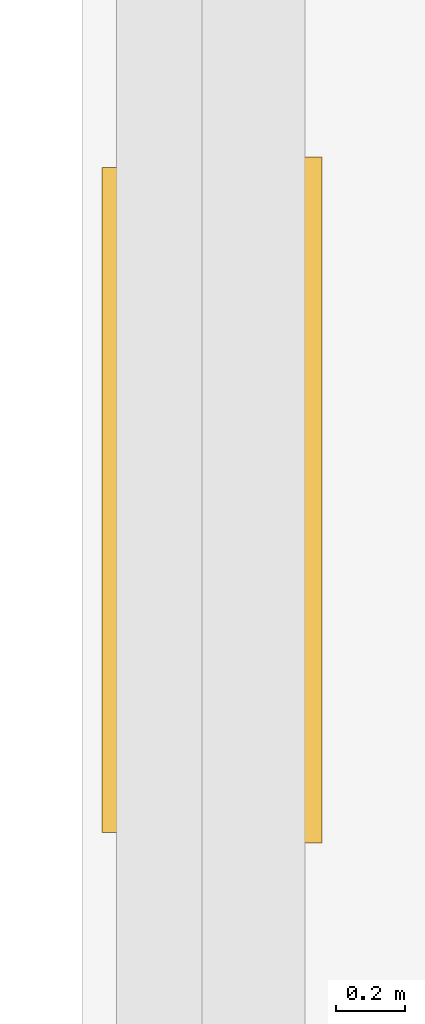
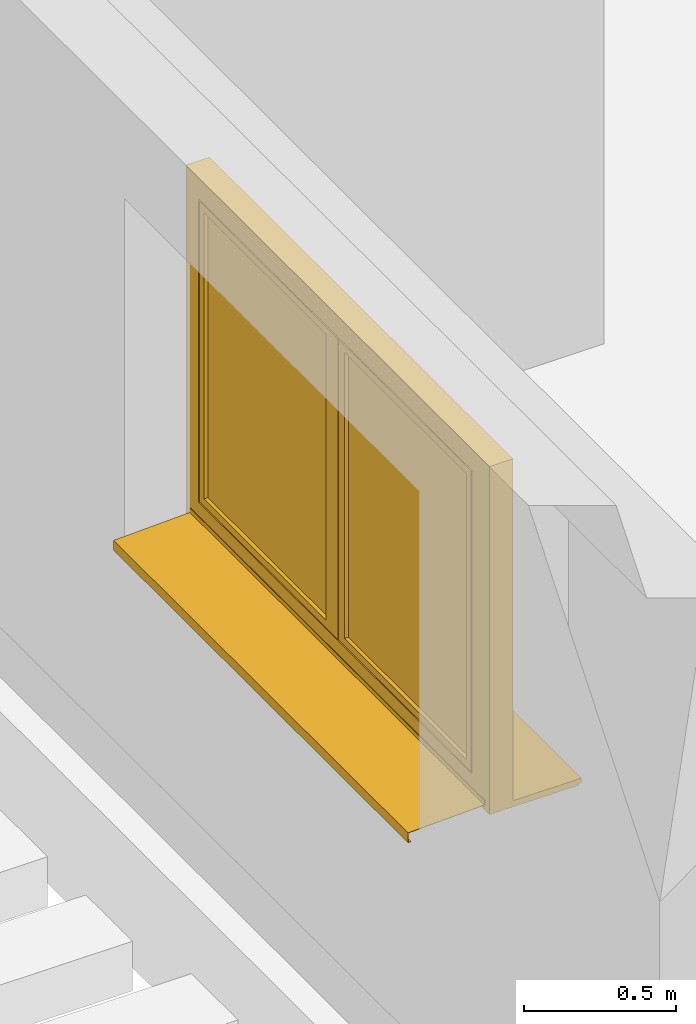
# One storey, part 17 of 22: 1 window.
"""IFC2X3 building model written with IfcOpenShell, lengths in metres."""

from ifc_helpers import new_model, entity, si_unit, converted_unit, derived_unit, direction, frame, frame_2d, origin, place, context, subcontext, project, spatial, polyline, rectangle, outline, extrude, faceted_brep, source, transform, mapped, material, material_list, type_object, type_shapes, element, save


model = new_model("IFC2X3")

# Units and contexts
model_context = context("Model", 3, precision=1e-05, world=origin(), true_north=direction((6.123233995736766e-17, 1.0)))
body_context = subcontext(model_context, "Body", "Model", "MODEL_VIEW")
ifc_project = project(units=[si_unit("LENGTHUNIT", "METRE"), si_unit("AREAUNIT", "SQUARE_METRE"), si_unit("VOLUMEUNIT", "CUBIC_METRE"), si_unit("POWERUNIT", "WATT"), derived_unit("USERDEFINED", [(si_unit("MASSUNIT", "GRAM", prefix="KILO"), 1), (si_unit("TIMEUNIT", "SECOND"), -3)]), derived_unit("THERMALRESISTANCEUNIT", [(si_unit("MASSUNIT", "GRAM", prefix="KILO"), -1), (si_unit("TIMEUNIT", "SECOND"), 3), (si_unit("THERMODYNAMICTEMPERATUREUNIT", "KELVIN"), 1)]), derived_unit("USERDEFINED", [(si_unit("MASSUNIT", "GRAM", prefix="KILO"), 1), (si_unit("TIMEUNIT", "SECOND"), -2), (si_unit("THERMODYNAMICTEMPERATUREUNIT", "KELVIN"), -1)]), derived_unit("THERMALTRANSMITTANCEUNIT", [(si_unit("MASSUNIT", "GRAM", prefix="KILO"), 1), (si_unit("TIMEUNIT", "SECOND"), -3), (si_unit("THERMODYNAMICTEMPERATUREUNIT", "KELVIN"), -1)]), converted_unit("PLANEANGLEUNIT", "DEGREE", entity("IfcPlaneAngleMeasure", 0.017453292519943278), si_unit("PLANEANGLEUNIT", "RADIAN"), dimensions=[0, 0, 0, 0, 0, 0, 0]), derived_unit("MOMENTOFINERTIAUNIT", [(si_unit("LENGTHUNIT", "METRE"), 4)])], contexts=[model_context])

# Site, building, storey
site_placement = place(None, origin())
site = spatial("IfcSite", under=ifc_project, at=site_placement, Name="Default", CompositionType="ELEMENT")
building_placement = place(site_placement, origin())
building = spatial("IfcBuilding", under=site, at=building_placement, CompositionType="ELEMENT")
storey_placement = place(building_placement, origin())
storey = spatial("IfcBuildingStorey", under=building, at=storey_placement, Name="Untergeschoss", CompositionType="ELEMENT", Elevation=0.0)

# Window
ifc_material_1 = material(Name="Glas - Isolierverglasung klar")
ifc_material_2 = material(Name="Holz - generisch 140-100-70")
ifc_material_3 = material(Name="Metall - Edelstahl gebürstet")
ifc_material_4 = material(Name="Kunststoff - grau 70-70-70")
ifc_material_list = material_list([ifc_material_1, ifc_material_2, ifc_material_3, ifc_material_4])
window_style = type_object("IfcWindowStyle", Name="FE 2 tlg - DrehKipp mit Stulp:2000 x 1400", ConstructionType="NOTDEFINED", OperationType="NOTDEFINED", ParameterTakesPrecedence=False, Sizeable=False, material=ifc_material_list)
shared_shape = source(origin(), body_context, "Body", "SolidModel", [
    extrude(rectangle(XDim=0.8050000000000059, YDim=0.04399999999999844, at=frame_2d((-2.7755575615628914e-17, 0.0), x_axis=(1.0, 0.0))), frame((1.4775000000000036, -0.3070000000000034, 0.13000000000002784)), (0.0, 0.0, 1.0), 1.149999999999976),
    extrude(rectangle(XDim=0.04399999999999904, YDim=0.8050000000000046, at=frame_2d((-1.734723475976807e-18, 2.7755575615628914e-17), x_axis=(1.0, 0.0))), frame((0.5524999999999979, -0.30700000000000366, 0.1300000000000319), z_axis=(0.0, 0.0, 1.0), x_axis=(0.0, -1.0, 0.0)), (0.0, 0.0, 1.0), 1.149999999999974),
    extrude(outline(polyline([(-0.014333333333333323, -0.0900000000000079), (0.00366666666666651, -0.0900000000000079), (0.0036666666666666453, -0.08000000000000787), (0.010666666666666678, -0.08000000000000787), (0.010666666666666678, 0.17000000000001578), (-0.014333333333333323, 0.17000000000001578), (-0.014333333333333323, -0.0900000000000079)])), frame((0.0, -0.530000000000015, 0.010666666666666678), z_axis=(1.0, 0.0, 0.0), x_axis=(0.0, 0.0, -1.0)), (0.0, 0.0, 1.0), 1.999999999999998),
    faceted_brep([(0.9920740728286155, -0.36000000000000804, 0.6842647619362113), (0.9908253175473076, -0.36000000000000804, 0.6812499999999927), (0.9888388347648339, -0.36000000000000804, 0.6786611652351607), (0.9862500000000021, -0.36000000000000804, 0.6766746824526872), (0.9832352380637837, -0.36000000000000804, 0.6754259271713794), (0.9800000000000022, -0.36000000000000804, 0.6749999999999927), (0.9767647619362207, -0.36000000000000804, 0.6754259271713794), (0.9737500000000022, -0.36000000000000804, 0.6766746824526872), (0.9711611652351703, -0.36000000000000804, 0.6786611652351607), (0.9691746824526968, -0.36000000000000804, 0.6812499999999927), (0.9679259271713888, -0.36000000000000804, 0.684264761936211), (0.9675000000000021, -0.36000000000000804, 0.6874999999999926), (0.9675000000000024, -0.360000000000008, 0.7049999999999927), (0.9675000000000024, -0.3600000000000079, 0.7224999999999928), (0.967925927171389, -0.3600000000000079, 0.725735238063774), (0.9691746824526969, -0.3600000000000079, 0.7287499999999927), (0.9711611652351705, -0.3600000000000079, 0.7313388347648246), (0.9737500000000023, -0.3600000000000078, 0.7333253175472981), (0.9767647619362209, -0.3600000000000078, 0.734574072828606), (0.9800000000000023, -0.3600000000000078, 0.7349999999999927), (0.9832352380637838, -0.3600000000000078, 0.734574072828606), (0.9862500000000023, -0.3600000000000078, 0.7333253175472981), (0.9888388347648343, -0.3600000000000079, 0.7313388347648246), (0.9908253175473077, -0.3600000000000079, 0.7287499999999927), (0.9920740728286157, -0.3600000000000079, 0.725735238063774), (0.9925000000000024, -0.3600000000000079, 0.7224999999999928), (0.9925000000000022, -0.360000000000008, 0.7049999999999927), (0.9925000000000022, -0.36000000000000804, 0.6874999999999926), (0.989659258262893, -0.392588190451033, 0.7075881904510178), (0.9850000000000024, -0.3660000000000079, 0.713660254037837), (0.9886602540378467, -0.39500000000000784, 0.7099999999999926), (0.9825881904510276, -0.3660000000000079, 0.7146592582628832), (0.9870710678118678, -0.39707106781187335, 0.7120710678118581), (0.9825881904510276, -0.39965925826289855, 0.7146592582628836), (0.9850000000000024, -0.3986602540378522, 0.7136602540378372), (0.9750000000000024, -0.3986602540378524, 0.7136602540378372), (0.9774118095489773, -0.3996592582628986, 0.7146592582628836), (0.9800000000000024, -0.4000000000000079, 0.7149999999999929), (0.9800000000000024, -0.3660000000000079, 0.7149999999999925), (0.989659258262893, -0.366000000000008, 0.7075881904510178), (0.9900000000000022, -0.3900000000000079, 0.7049999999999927), (0.9900000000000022, -0.38707108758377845, 0.7049999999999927), (0.9900000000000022, -0.3841421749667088, 0.7049999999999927), (0.9900000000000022, -0.3782843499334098, 0.7049999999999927), (0.9900000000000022, -0.366000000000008, 0.7049999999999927), (0.9886602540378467, -0.366000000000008, 0.7099999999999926), (0.9870710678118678, -0.3660000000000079, 0.7120710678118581), (0.9729289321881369, -0.3970710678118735, 0.7120710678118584), (0.9703407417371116, -0.39258819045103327, 0.7075881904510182), (0.971339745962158, -0.39500000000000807, 0.7099999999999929), (0.9750000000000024, -0.3660000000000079, 0.7136602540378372), (0.9774118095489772, -0.3660000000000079, 0.7146592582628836), (0.9700000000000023, -0.39000000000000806, 0.704999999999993), (0.9729289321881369, -0.3660000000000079, 0.7120710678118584), (0.971339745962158, -0.366000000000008, 0.7099999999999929), (0.9703407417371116, -0.366000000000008, 0.7075881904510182), (0.9700000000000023, -0.366000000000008, 0.7049999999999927), (0.9700000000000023, -0.378284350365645, 0.704999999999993), (0.9700000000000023, -0.3841421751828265, 0.7049999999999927), (0.9700000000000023, -0.3870710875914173, 0.7049999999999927), (0.9713397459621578, -0.385000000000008, 0.6999999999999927), (0.9729289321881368, -0.3829289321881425, 0.6979289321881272), (0.9703407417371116, -0.38741180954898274, 0.7024118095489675), (0.9703407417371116, -0.366000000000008, 0.7024118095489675), (0.9886602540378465, -0.385000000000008, 0.6999999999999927), (0.9896592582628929, -0.3874118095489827, 0.7024118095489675), (0.9896592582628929, -0.366000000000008, 0.7024118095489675), (0.9729289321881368, -0.366000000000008, 0.6979289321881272), (0.977411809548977, -0.3803407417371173, 0.6953407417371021), (0.9750000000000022, -0.38133974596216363, 0.6963397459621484), (0.971339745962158, -0.366000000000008, 0.6999999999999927), (0.9750000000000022, -0.366000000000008, 0.6963397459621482), (0.977411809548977, -0.366000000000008, 0.6953407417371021), (0.9800000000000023, -0.366000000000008, 0.6949999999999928), (0.9800000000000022, -0.38000000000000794, 0.6949999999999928), (0.9850000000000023, -0.38133974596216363, 0.6963397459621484), (0.9870710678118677, -0.38292893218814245, 0.6979289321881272), (0.9870710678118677, -0.366000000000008, 0.6979289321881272), (0.9825881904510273, -0.3803407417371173, 0.6953407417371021), (0.9825881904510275, -0.366000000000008, 0.6953407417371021), (0.9850000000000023, -0.366000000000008, 0.6963397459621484), (0.9886602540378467, -0.366000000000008, 0.6999999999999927), (0.9886602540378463, -0.38500000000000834, 0.5849999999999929), (0.9896592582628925, -0.3874118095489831, 0.5849999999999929), (0.9900000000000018, -0.39000000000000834, 0.5849999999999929), (0.9896592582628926, -0.39258819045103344, 0.5849999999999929), (0.9886602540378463, -0.3950000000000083, 0.5849999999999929), (0.9870710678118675, -0.39707106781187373, 0.5849999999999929), (0.985000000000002, -0.39866025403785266, 0.5849999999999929), (0.9825881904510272, -0.39965925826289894, 0.5849999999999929), (0.9800000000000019, -0.40000000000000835, 0.5849999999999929), (0.9774118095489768, -0.3996592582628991, 0.5849999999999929), (0.975000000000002, -0.39866025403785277, 0.5849999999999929), (0.9729289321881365, -0.39707106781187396, 0.5849999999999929), (0.9713397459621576, -0.39500000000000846, 0.5849999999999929), (0.9703407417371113, -0.3925881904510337, 0.5849999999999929), (0.9700000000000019, -0.39000000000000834, 0.5849999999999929), (0.9703407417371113, -0.3874118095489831, 0.5849999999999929), (0.9713397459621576, -0.38500000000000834, 0.5849999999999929), (0.9729289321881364, -0.38292893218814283, 0.5849999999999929), (0.9750000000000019, -0.38133974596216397, 0.5849999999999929), (0.9774118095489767, -0.3803407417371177, 0.5849999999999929), (0.9800000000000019, -0.3800000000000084, 0.5849999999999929), (0.9825881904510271, -0.3803407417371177, 0.5849999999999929), (0.9850000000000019, -0.38133974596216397, 0.5849999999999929), (0.9870710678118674, -0.38292893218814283, 0.5849999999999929), (0.9900000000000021, -0.3900000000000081, 0.6497913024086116), (0.9900000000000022, -0.390000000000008, 0.6773956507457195), (0.9700000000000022, -0.39000000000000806, 0.6773956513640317), (0.970000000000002, -0.3900000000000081, 0.649791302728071), (0.9711611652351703, -0.36600000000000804, 0.678661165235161), (0.9691746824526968, -0.36600000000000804, 0.6812499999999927), (0.9737500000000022, -0.36600000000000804, 0.6766746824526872), (0.9767647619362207, -0.36600000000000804, 0.6754259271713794), (0.9800000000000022, -0.36600000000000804, 0.6749999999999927), (0.9832352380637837, -0.36600000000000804, 0.6754259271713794), (0.9862500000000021, -0.36600000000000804, 0.6766746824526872), (0.9888388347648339, -0.36600000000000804, 0.678661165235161), (0.9908253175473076, -0.36600000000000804, 0.6812499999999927), (0.9920740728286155, -0.36600000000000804, 0.6842647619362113), (0.9925000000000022, -0.36600000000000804, 0.6874999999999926), (0.9925000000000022, -0.366000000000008, 0.7049999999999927), (0.9925000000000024, -0.3660000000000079, 0.7224999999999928), (0.9920740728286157, -0.3660000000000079, 0.7257352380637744), (0.9908253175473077, -0.3660000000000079, 0.7287499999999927), (0.9888388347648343, -0.3660000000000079, 0.7313388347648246), (0.9862500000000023, -0.3660000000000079, 0.7333253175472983), (0.9832352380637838, -0.3660000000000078, 0.734574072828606), (0.9800000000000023, -0.3660000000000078, 0.7349999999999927), (0.9767647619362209, -0.3660000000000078, 0.734574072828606), (0.9737500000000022, -0.3660000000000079, 0.7333253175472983), (0.9711611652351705, -0.3660000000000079, 0.7313388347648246), (0.9691746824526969, -0.3660000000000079, 0.7287499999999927), (0.967925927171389, -0.3660000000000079, 0.7257352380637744), (0.9675000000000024, -0.3660000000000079, 0.7224999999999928), (0.9675000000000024, -0.366000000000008, 0.7049999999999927), (0.9675000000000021, -0.36600000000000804, 0.6874999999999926), (0.9679259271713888, -0.36600000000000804, 0.6842647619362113)], [[[0, 1, 2, 3, 4, 5, 6, 7, 8, 9, 10, 11, 12, 13, 14, 15, 16, 17, 18, 19, 20, 21, 22, 23, 24, 25, 26, 27]], [[28, 29, 30]], [[30, 31, 32]], [[33, 34, 35, 36, 37]], [[38, 32, 31]], [[34, 32, 38]], [[39, 40, 41, 42, 43, 44]], [[45, 40, 39]], [[40, 45, 46]], [[29, 28, 46]], [[46, 28, 40]], [[29, 31, 30]], [[38, 35, 34]], [[35, 38, 47]], [[48, 49, 50]], [[51, 49, 47]], [[52, 48, 53]], [[47, 38, 51]], [[49, 51, 50]], [[52, 53, 54]], [[55, 56, 57, 58, 59, 52]], [[55, 52, 54]], [[53, 48, 50]], [[60, 57, 61]], [[59, 58, 62, 52]], [[56, 63, 57]], [[64, 43, 42]], [[41, 40, 65, 42]], [[44, 43, 66]], [[67, 68, 69]], [[67, 69, 57]], [[69, 61, 57]], [[63, 70, 57]], [[67, 71, 68]], [[67, 57, 70]], [[72, 68, 71]], [[72, 73, 74, 68]], [[75, 43, 76]], [[77, 75, 78]], [[65, 64, 42]], [[76, 43, 64]], [[79, 78, 74, 73]], [[78, 79, 80]], [[62, 58, 60]], [[43, 75, 77]], [[60, 58, 57]], [[81, 66, 43]], [[77, 81, 43]], [[77, 78, 80]], [[82, 83, 84, 85, 86, 87, 88, 89, 90, 91, 92, 93, 94, 95, 96, 97, 98, 99, 100, 101, 102, 103, 104, 105]], [[85, 84, 106, 107, 40]], [[85, 40, 86]], [[34, 33, 89, 88]], [[87, 86, 28]], [[88, 87, 32, 34]], [[28, 30, 87]], [[86, 40, 28]], [[87, 30, 32]], [[33, 37, 90, 89]], [[47, 93, 92, 35]], [[35, 92, 91, 36]], [[95, 52, 108, 109, 96]], [[52, 95, 94]], [[48, 94, 93]], [[90, 37, 36, 91]], [[47, 49, 93]], [[49, 48, 93]], [[48, 52, 94]], [[99, 98, 109]], [[97, 109, 98]], [[109, 68, 101]], [[101, 100, 109]], [[100, 99, 109]], [[96, 109, 97]], [[108, 52, 62]], [[108, 62, 60]], [[102, 101, 68, 74]], [[68, 109, 69]], [[61, 69, 109]], [[60, 61, 108]], [[65, 107, 64]], [[108, 61, 109]], [[104, 106, 105]], [[103, 106, 104]], [[83, 106, 84]], [[107, 65, 40]], [[82, 106, 83]], [[105, 106, 82]], [[103, 102, 74, 78]], [[78, 106, 103]], [[75, 76, 106]], [[76, 107, 106]], [[106, 78, 75]], [[76, 64, 107]], [[110, 73, 111]], [[112, 73, 110]], [[112, 113, 73]], [[114, 73, 113]], [[115, 73, 114]], [[115, 116, 73]], [[117, 73, 116]], [[117, 118, 73]], [[118, 79, 73]], [[79, 118, 119]], [[119, 120, 79]], [[120, 80, 79]], [[120, 77, 80]], [[77, 120, 81]], [[81, 120, 121]], [[66, 81, 121]], [[44, 66, 121]], [[39, 44, 121]], [[45, 39, 121]], [[45, 121, 122]], [[122, 46, 45]], [[122, 29, 46]], [[122, 31, 29]], [[122, 123, 31]], [[124, 31, 123]], [[124, 38, 31]], [[125, 38, 124]], [[38, 125, 126]], [[38, 126, 127]], [[127, 128, 38]], [[128, 129, 38]], [[38, 129, 130]], [[130, 131, 38]], [[132, 38, 131]], [[38, 132, 51]], [[51, 132, 133]], [[134, 51, 133]], [[134, 50, 51]], [[134, 53, 50]], [[134, 54, 53]], [[134, 135, 54]], [[55, 54, 135]], [[135, 56, 55]], [[63, 56, 135]], [[70, 63, 135]], [[136, 70, 135]], [[136, 67, 70]], [[136, 71, 67]], [[71, 136, 72]], [[72, 136, 137]], [[111, 72, 137]], [[111, 73, 72]], [[13, 134, 133, 14]], [[14, 133, 132, 15]], [[17, 16, 131, 130]], [[131, 16, 15, 132]], [[18, 17, 130, 129]], [[18, 129, 128, 19]], [[19, 128, 127, 20]], [[20, 127, 126, 21]], [[23, 22, 125, 124]], [[125, 22, 21, 126]], [[24, 23, 124, 123]], [[24, 123, 122, 25]], [[26, 25, 122, 121, 120, 27]], [[27, 120, 119, 0]], [[0, 119, 118, 1]], [[3, 2, 117, 116]], [[117, 2, 1, 118]], [[4, 3, 116, 115]], [[4, 115, 114, 5]], [[5, 114, 113, 6]], [[6, 113, 112, 7]], [[9, 8, 110, 111]], [[110, 8, 7, 112]], [[10, 9, 111, 137]], [[10, 137, 136, 11]], [[12, 11, 136, 135, 134, 13]]]),
    faceted_brep([(1.0750000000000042, -0.2700000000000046, 1.280000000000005), (1.0750000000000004, -0.2700000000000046, 0.13000000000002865), (1.8800000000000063, -0.2700000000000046, 0.1300000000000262), (1.88000000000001, -0.2700000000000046, 1.2800000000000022), (0.9975000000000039, -0.2700000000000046, 1.309999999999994), (1.9100000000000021, -0.2700000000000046, 1.3099999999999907), (1.9099999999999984, -0.2700000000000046, 0.09999999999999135), (0.9974999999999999, -0.2700000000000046, 0.09999999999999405), (1.0374999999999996, -0.3600000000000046, 0.060000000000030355), (1.0374999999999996, -0.34500000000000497, 0.060000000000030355), (1.9500000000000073, -0.34500000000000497, 0.06000000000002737), (1.9500000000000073, -0.3600000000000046, 0.06000000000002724), (1.9500000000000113, -0.34500000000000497, 1.3500000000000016), (1.9500000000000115, -0.3600000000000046, 1.3500000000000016), (1.0750000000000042, -0.3600000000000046, 1.280000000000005), (1.88000000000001, -0.3600000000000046, 1.2800000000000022), (1.8800000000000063, -0.3600000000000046, 0.1300000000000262), (1.0750000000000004, -0.3600000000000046, 0.13000000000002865), (1.0375000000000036, -0.3600000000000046, 1.3500000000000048), (1.0375000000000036, -0.3450000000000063, 1.3500000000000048), (1.0375000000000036, -0.3450000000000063, 1.3349999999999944), (1.0374999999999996, -0.34500000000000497, 0.07499999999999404), (0.9974999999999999, -0.28500000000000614, 0.09999999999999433), (0.9975000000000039, -0.28500000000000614, 1.309999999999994), (1.0125, -0.2850000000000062, 0.09999999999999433), (1.0125000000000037, -0.2850000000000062, 1.309999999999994), (1.0124999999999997, -0.2850000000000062, 0.08499999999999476), (1.0124999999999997, -0.3150000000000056, 0.08499999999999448), (1.0125000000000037, -0.3150000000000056, 1.324999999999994), (1.012500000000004, -0.2850000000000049, 1.324999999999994), (1.0225, -0.3150000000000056, 0.08499999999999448), (1.022500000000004, -0.3150000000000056, 1.324999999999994), (1.0225, -0.3150000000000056, 0.07499999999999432), (1.0224999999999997, -0.34500000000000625, 0.07499999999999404), (1.022500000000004, -0.34500000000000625, 1.3349999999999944), (1.022500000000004, -0.31500000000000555, 1.3349999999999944), (1.9099999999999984, -0.2850000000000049, 0.09999999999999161), (1.9100000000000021, -0.2850000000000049, 1.3099999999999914), (1.9350000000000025, -0.34500000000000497, 1.3349999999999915), (1.9349999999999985, -0.34500000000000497, 0.07499999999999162), (1.9249999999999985, -0.31500000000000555, 0.08499999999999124), (1.9249999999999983, -0.2850000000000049, 0.08499999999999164), (1.925000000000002, -0.2850000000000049, 1.324999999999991), (1.9349999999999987, -0.31500000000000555, 0.07499999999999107), (1.9250000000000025, -0.31500000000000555, 1.3249999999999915), (1.9350000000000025, -0.31500000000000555, 1.3349999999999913)], [[[0, 1, 2, 3], [4, 5, 6, 7]], [[8, 9, 10, 11]], [[11, 10, 12, 13]], [[14, 15, 16, 17], [13, 18, 8, 11]], [[17, 1, 0, 14]], [[16, 2, 1, 17]], [[15, 3, 2, 16]], [[13, 12, 19, 18]], [[14, 0, 3, 15]], [[18, 19, 20, 21, 9, 8]], [[7, 22, 23, 4]], [[22, 24, 25, 23]], [[24, 26, 27, 28, 29, 25]], [[27, 30, 31, 28]], [[30, 32, 33, 34, 35, 31]], [[33, 21, 20, 34]], [[36, 24, 22, 7, 6]], [[6, 5, 37, 36]], [[38, 20, 19, 12, 10, 9, 21, 39]], [[40, 30, 27, 26, 41]], [[37, 25, 29, 42, 41, 26, 24, 36]], [[39, 21, 33, 32, 43]], [[44, 31, 35, 45, 43, 32, 30, 40]], [[41, 42, 44, 40]], [[43, 45, 38, 39]], [[5, 4, 23, 25, 37]], [[42, 29, 28, 31, 44]], [[45, 35, 34, 20, 38]]], outer=[[False, True], [True], [True], [False, True], [True], [True], [True], [True], [True], [True], [True], [True], [True], [True], [True], [True], [True], [True], [True], [True], [True], [True], [True], [True], [True], [True], [True], [True]]),
    faceted_brep([(0.11999999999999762, -0.2850000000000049, 0.0999999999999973), (0.9925, -0.2850000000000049, 0.0999999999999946), (0.9925000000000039, -0.2850000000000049, 1.3099999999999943), (0.12000000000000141, -0.2850000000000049, 1.309999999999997), (0.10500000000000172, -0.2850000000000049, 1.3249999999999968), (1.0075000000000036, -0.2850000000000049, 1.3249999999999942), (1.0074999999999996, -0.2850000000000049, 0.08499999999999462), (0.10499999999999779, -0.2850000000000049, 0.08499999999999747), (0.12000000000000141, -0.270000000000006, 1.309999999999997), (0.1199999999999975, -0.27000000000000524, 0.0999999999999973), (0.9925, -0.270000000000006, 0.0999999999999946), (0.1499999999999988, -0.270000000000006, 1.2800000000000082), (0.14999999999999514, -0.270000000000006, 0.13000000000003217), (0.9550000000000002, -0.270000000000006, 0.13000000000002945), (0.955000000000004, -0.270000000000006, 1.2800000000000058), (0.9925000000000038, -0.270000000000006, 1.3099999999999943), (0.10499999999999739, -0.31500000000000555, 0.08499999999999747), (1.0074999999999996, -0.31500000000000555, 0.08499999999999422), (1.0075000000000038, -0.31500000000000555, 1.3249999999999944), (0.10500000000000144, -0.31500000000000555, 1.3249999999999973), (0.09500000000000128, -0.31500000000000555, 1.3349999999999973), (1.0175000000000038, -0.31500000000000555, 1.3349999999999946), (1.0174999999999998, -0.31500000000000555, 0.07499999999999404), (0.09499999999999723, -0.31500000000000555, 0.07499999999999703), (0.09499999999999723, -0.34500000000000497, 0.0749999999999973), (1.0174999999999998, -0.34500000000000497, 0.07499999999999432), (1.0175000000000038, -0.34500000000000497, 1.3349999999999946), (0.09500000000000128, -0.34500000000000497, 1.3349999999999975), (0.07999999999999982, -0.34500000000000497, 1.3500000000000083), (1.032500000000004, -0.34500000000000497, 1.350000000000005), (1.0324999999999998, -0.34500000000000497, 0.06000000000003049), (0.07999999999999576, -0.34500000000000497, 0.060000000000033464), (0.07999999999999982, -0.36000000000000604, 1.3500000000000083), (0.07999999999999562, -0.36000000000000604, 0.060000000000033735), (1.0324999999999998, -0.36000000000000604, 0.06000000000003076), (1.032500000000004, -0.36000000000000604, 1.3500000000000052), (0.1499999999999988, -0.36000000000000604, 1.2800000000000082), (0.955000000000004, -0.36000000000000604, 1.2800000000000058), (0.9550000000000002, -0.36000000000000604, 0.13000000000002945), (0.14999999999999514, -0.36000000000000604, 0.13000000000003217)], [[[0, 1, 2, 3], [4, 5, 6, 7]], [[3, 8, 9, 0]], [[9, 10, 1, 0]], [[11, 12, 13, 14], [8, 15, 10, 9]], [[16, 17, 18, 19], [20, 21, 22, 23]], [[19, 4, 7, 16]], [[6, 17, 16, 7]], [[24, 25, 26, 27], [28, 29, 30, 31]], [[27, 20, 23, 24]], [[22, 25, 24, 23]], [[1, 10, 15, 2]], [[5, 18, 17, 6]], [[21, 26, 25, 22]], [[32, 28, 31, 33]], [[30, 34, 33, 31]], [[29, 35, 34, 30]], [[33, 34, 35, 32], [36, 37, 38, 39]], [[39, 12, 11, 36]], [[38, 13, 12, 39]], [[37, 14, 13, 38]], [[3, 2, 15, 8]], [[19, 18, 5, 4]], [[27, 26, 21, 20]], [[32, 35, 29, 28]], [[36, 11, 14, 37]]], outer=[[False, True], [True], [True], [False, True], [False, True], [True], [True], [False, True], [True], [True], [True], [True], [True], [True], [True], [True], [True, False], [True], [True], [True], [True], [True], [True], [True], [True]]),
    faceted_brep([(0.030000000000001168, 0.02200000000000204, 0.011185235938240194), (0.030000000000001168, 0.0, 0.012000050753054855), (0.02999999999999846, -0.2679999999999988, 0.021925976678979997), (1.9699999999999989, -0.2679999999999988, 0.021925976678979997), (1.9699999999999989, 0.0, 0.012000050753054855), (1.9699999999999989, 0.022000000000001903, 0.011185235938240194), (0.030000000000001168, 0.022000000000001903, -0.02881476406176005), (1.9699999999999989, 0.022000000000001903, -0.02881476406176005), (0.030000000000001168, 0.010000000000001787, -0.02881476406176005), (1.9699999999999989, 0.010000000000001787, -0.02881476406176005), (0.030000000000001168, 0.010000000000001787, -0.026814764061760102), (1.9699999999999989, 0.010000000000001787, -0.026814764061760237), (0.030000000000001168, 0.020000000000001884, -0.026814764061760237), (1.9699999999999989, 0.020000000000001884, -0.026814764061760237), (0.030000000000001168, 0.020000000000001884, 0.009259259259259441), (1.9699999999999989, 0.020000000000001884, 0.009259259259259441), (0.030000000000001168, 0.0, 0.010000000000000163), (1.9699999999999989, 0.0, 0.010000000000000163), (1.9699999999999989, -0.26999999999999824, 0.02000000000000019), (0.02999999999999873, -0.2699999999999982, 0.02000000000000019), (0.02999999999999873, -0.26999999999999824, 0.04000000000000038), (1.9699999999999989, -0.26999999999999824, 0.04000000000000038), (0.02999999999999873, -0.2679999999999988, 0.04000000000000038), (1.9699999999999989, -0.2679999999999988, 0.04000000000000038)], [[[0, 1, 2, 3, 4, 5]], [[6, 0, 5, 7]], [[8, 6, 7, 9]], [[10, 8, 9, 11]], [[12, 10, 11, 13]], [[14, 12, 13, 15]], [[16, 14, 15, 17, 18, 19]], [[20, 19, 18, 21]], [[22, 20, 21, 23]], [[2, 22, 23, 3]], [[16, 1, 0, 6, 8, 10, 12, 14]], [[17, 4, 3, 23, 21, 18]], [[1, 16, 19, 20, 22, 2]], [[4, 17, 15, 13, 11, 9, 7, 5]]]),
    faceted_brep([(2.0, -0.2699999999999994, 0.0), (2.0, -0.35999999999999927, 0.0), (0.0, -0.35999999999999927, 0.0), (0.0, -0.2699999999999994, 0.0), (2.0, -0.2699999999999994, 1.3999999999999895), (2.0, -0.35999999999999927, 1.3999999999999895), (1.9549999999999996, -0.35999999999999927, 1.3549999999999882), (1.954999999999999, -0.35999999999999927, 0.05500000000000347), (0.07500000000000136, -0.35999999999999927, 0.05500000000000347), (0.07500000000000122, -0.35999999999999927, 1.3549999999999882), (0.0, -0.35999999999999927, 1.3999999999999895), (0.0, -0.2699999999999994, 1.3999999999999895), (1.9149999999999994, -0.2699999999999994, 0.09500000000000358), (1.9149999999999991, -0.2699999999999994, 1.3149999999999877), (0.11500000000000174, -0.2699999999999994, 1.314999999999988), (0.11500000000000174, -0.2699999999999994, 0.09500000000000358), (1.9149999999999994, -0.2850000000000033, 0.09500000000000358), (1.9149999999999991, -0.2850000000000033, 1.3149999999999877), (0.11500000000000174, -0.2850000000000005, 0.09500000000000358), (0.1150000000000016, -0.2850000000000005, 1.3149999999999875), (1.9549999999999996, -0.3450000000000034, 1.3549999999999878), (1.9549999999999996, -0.3450000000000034, 0.05500000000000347), (0.07500000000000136, -0.3450000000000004, 0.05500000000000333), (0.0750000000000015, -0.3450000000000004, 1.3549999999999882), (1.9399999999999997, -0.3450000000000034, 1.339999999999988), (1.9399999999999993, -0.3450000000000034, 0.07000000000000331), (0.09000000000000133, -0.3450000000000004, 0.07000000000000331), (0.09000000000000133, -0.3450000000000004, 1.339999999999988), (1.9399999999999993, -0.3150000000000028, 0.07000000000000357), (1.9399999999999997, -0.3150000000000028, 1.339999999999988), (0.0900000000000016, -0.31499999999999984, 1.3399999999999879), (0.09000000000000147, -0.31499999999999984, 0.07000000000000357), (1.9299999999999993, -0.3150000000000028, 1.3299999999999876), (1.9299999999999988, -0.3150000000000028, 0.08000000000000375), (0.10000000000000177, -0.31499999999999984, 0.08000000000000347), (0.10000000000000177, -0.31499999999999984, 1.3299999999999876), (1.929999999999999, -0.2850000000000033, 0.08000000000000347), (1.929999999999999, -0.2850000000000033, 1.3299999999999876), (0.10000000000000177, -0.2850000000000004, 1.3299999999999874), (0.1000000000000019, -0.2850000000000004, 0.08000000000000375)], [[[0, 1, 2, 3]], [[4, 5, 1, 0]], [[6, 7, 8, 9], [5, 10, 2, 1]], [[10, 11, 3, 2]], [[12, 13, 14, 15], [11, 4, 0, 3]], [[12, 16, 17, 13]], [[18, 15, 14, 19]], [[16, 12, 15, 18]], [[20, 21, 7, 6]], [[7, 21, 22, 8]], [[8, 22, 23, 9]], [[21, 20, 23, 22], [24, 25, 26, 27]], [[28, 29, 30, 31], [32, 33, 34, 35]], [[29, 28, 25, 24]], [[25, 28, 31, 26]], [[17, 16, 18, 19], [36, 37, 38, 39]], [[37, 36, 33, 32]], [[33, 36, 39, 34]], [[26, 31, 30, 27]], [[34, 39, 38, 35]], [[4, 11, 10, 5]], [[20, 6, 9, 23]], [[29, 24, 27, 30]], [[37, 32, 35, 38]], [[13, 17, 19, 14]]], outer=[[True], [True], [False, True], [True], [False, True], [True], [True], [True], [True], [True], [True], [True, False], [True, False], [True], [True], [False, True], [True], [True], [True], [True], [True], [True], [True], [True], [True]]),
])
type_shapes(window_style, [shared_shape])
window_placement = place(storey_placement, frame((27.5308412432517, 16.84727237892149, 0.85), z_axis=(0.0, 0.0, 1.0), x_axis=(0.0, 1.0, 0.0)))
element("IfcWindow", 1, at=window_placement, inside=storey, type_object=window_style, material=ifc_material_list, Name="FE 2 tlg - DrehKipp mit Stulp:2000 x 1400", ObjectType="FE 2 tlg - DrehKipp mit Stulp:2000 x 1400", OverallHeight=2.250000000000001, OverallWidth=2.0000000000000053, context=body_context, shape_type="MappedRepresentation", body=[
    mapped(shared_shape, transform((0.0, 0.0, 0.0), scale=1.0)),
])

save(model, "model.ifc")
